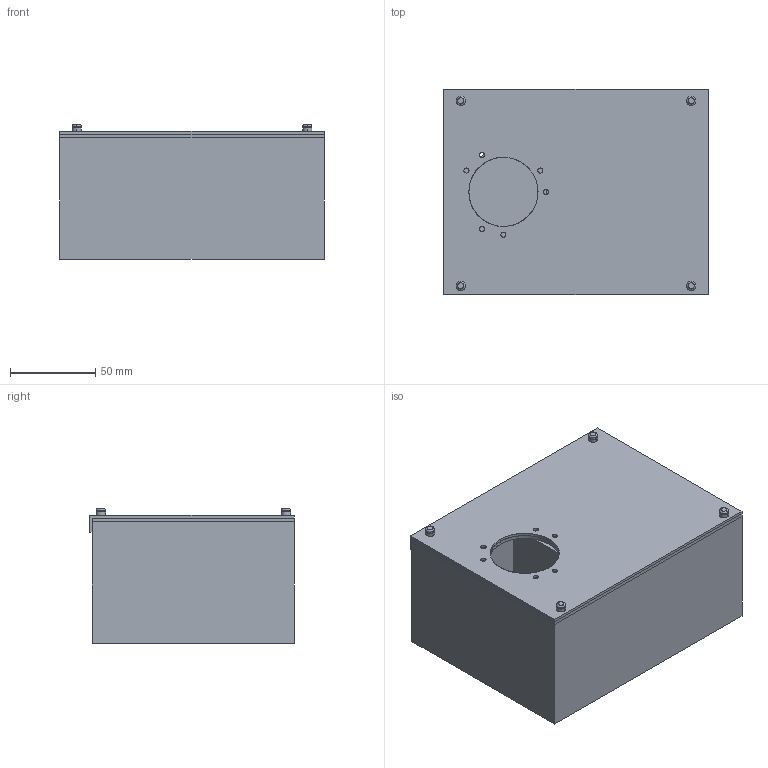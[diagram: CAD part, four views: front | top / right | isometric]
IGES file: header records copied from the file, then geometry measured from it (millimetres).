
Global section: file name: E:\UnigraphicsGraphicData\MISUMI_PRESS-PARTS\IGES\3d_jbx160_04235_r00.igs; native system: NX V5.0; preprocessor: UGS NX IGES V5.0; author: MISUMI; date: 20110105.161102; units: millimetre
Bounding box: 155 x 120 x 79 mm (x, y, z)
Surface area: 221895.9 mm2 (no closed solid volume)
Topology: 0 solids, 0 shells, 160 faces, 1328 edges, 1328 vertices
Faces by surface type: bspline 160
